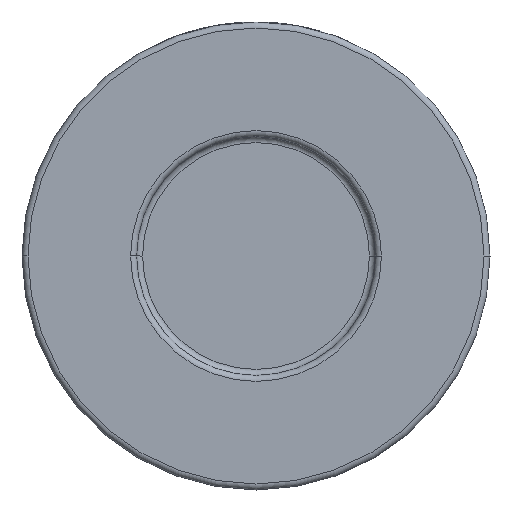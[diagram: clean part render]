
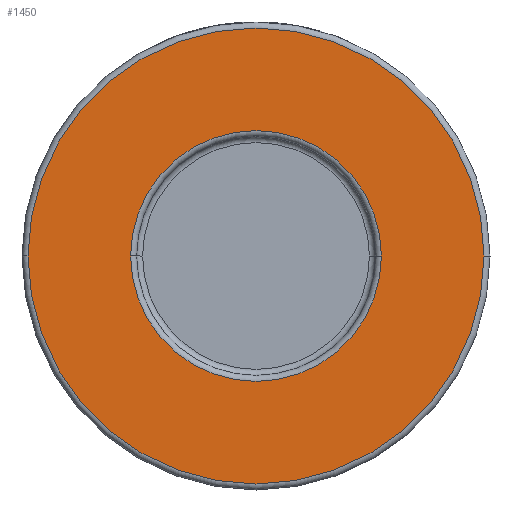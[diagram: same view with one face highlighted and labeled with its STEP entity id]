
A CAD part, front view. The second image highlights one B-rep face of the part: STEP entity #1450.
In plain terms, the highlighted planar face has unit normal (0, -1, 0).
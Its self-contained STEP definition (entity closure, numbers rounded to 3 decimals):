
#10 = CARTESIAN_POINT ( 'NONE',  ( -38., -19., 0. ) ) ;
#20 = CIRCLE ( 'NONE', #1421, 38. ) ;
#35 = DIRECTION ( 'NONE',  ( 1., 0., 0. ) ) ;
#213 = CARTESIAN_POINT ( 'NONE',  ( 20.9, -19., 0. ) ) ;
#498 = DIRECTION ( 'NONE',  ( 1., 0., 0. ) ) ;
#633 = VERTEX_POINT ( 'NONE', #213 ) ;
#642 = DIRECTION ( 'NONE',  ( 0., 1., 0. ) ) ;
#799 = ORIENTED_EDGE ( 'NONE', *, *, #4241, .T. ) ;
#1006 = VERTEX_POINT ( 'NONE', #10 ) ;
#1088 = EDGE_CURVE ( 'NONE', #2755, #633, #3994, .T. ) ;
#1243 = EDGE_LOOP ( 'NONE', ( #3189, #799 ) ) ;
#1341 = FACE_OUTER_BOUND ( 'NONE', #1243, .T. ) ;
#1421 = AXIS2_PLACEMENT_3D ( 'NONE', #3449, #4412, #2658 ) ;
#1450 = ADVANCED_FACE ( 'NONE', ( #1657, #1341 ), #2736, .T. ) ;
#1514 = AXIS2_PLACEMENT_3D ( 'NONE', #2679, #2310, #498 ) ;
#1657 = FACE_BOUND ( 'NONE', #3127, .T. ) ;
#1785 = CIRCLE ( 'NONE', #3098, 38. ) ;
#1827 = ORIENTED_EDGE ( 'NONE', *, *, #1088, .T. ) ;
#1937 = CIRCLE ( 'NONE', #2739, 20.9 ) ;
#2097 = CARTESIAN_POINT ( 'NONE',  ( 39., -19., 0. ) ) ;
#2151 = EDGE_CURVE ( 'NONE', #2315, #1006, #1785, .T. ) ;
#2310 = DIRECTION ( 'NONE',  ( 0., 1., 0. ) ) ;
#2315 = VERTEX_POINT ( 'NONE', #2366 ) ;
#2363 = DIRECTION ( 'NONE',  ( 1., 0., 0. ) ) ;
#2366 = CARTESIAN_POINT ( 'NONE',  ( 38., -19., 0. ) ) ;
#2457 = AXIS2_PLACEMENT_3D ( 'NONE', #2097, #3793, #2363 ) ;
#2521 = DIRECTION ( 'NONE',  ( 0., -1., 0. ) ) ;
#2658 = DIRECTION ( 'NONE',  ( 1., 0., 0. ) ) ;
#2679 = CARTESIAN_POINT ( 'NONE',  ( 0., -19., 0. ) ) ;
#2736 = PLANE ( 'NONE',  #2457 ) ;
#2739 = AXIS2_PLACEMENT_3D ( 'NONE', #4196, #642, #3865 ) ;
#2755 = VERTEX_POINT ( 'NONE', #3010 ) ;
#2797 = ORIENTED_EDGE ( 'NONE', *, *, #2832, .T. ) ;
#2832 = EDGE_CURVE ( 'NONE', #633, #2755, #1937, .T. ) ;
#3010 = CARTESIAN_POINT ( 'NONE',  ( -20.9, -19., 0. ) ) ;
#3098 = AXIS2_PLACEMENT_3D ( 'NONE', #3182, #2521, #35 ) ;
#3127 = EDGE_LOOP ( 'NONE', ( #2797, #1827 ) ) ;
#3182 = CARTESIAN_POINT ( 'NONE',  ( 0., -19., 0. ) ) ;
#3189 = ORIENTED_EDGE ( 'NONE', *, *, #2151, .T. ) ;
#3449 = CARTESIAN_POINT ( 'NONE',  ( 0., -19., 0. ) ) ;
#3793 = DIRECTION ( 'NONE',  ( 0., -1., 0. ) ) ;
#3865 = DIRECTION ( 'NONE',  ( 1., 0., 0. ) ) ;
#3994 = CIRCLE ( 'NONE', #1514, 20.9 ) ;
#4196 = CARTESIAN_POINT ( 'NONE',  ( 0., -19., 0. ) ) ;
#4241 = EDGE_CURVE ( 'NONE', #1006, #2315, #20, .T. ) ;
#4412 = DIRECTION ( 'NONE',  ( 0., -1., 0. ) ) ;
